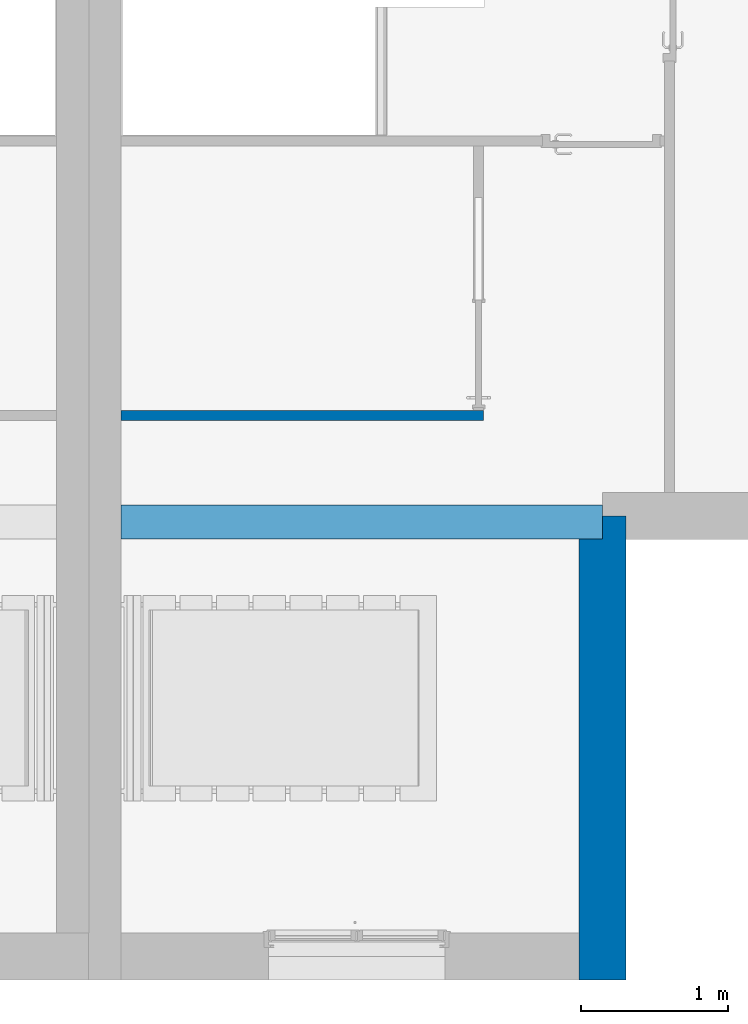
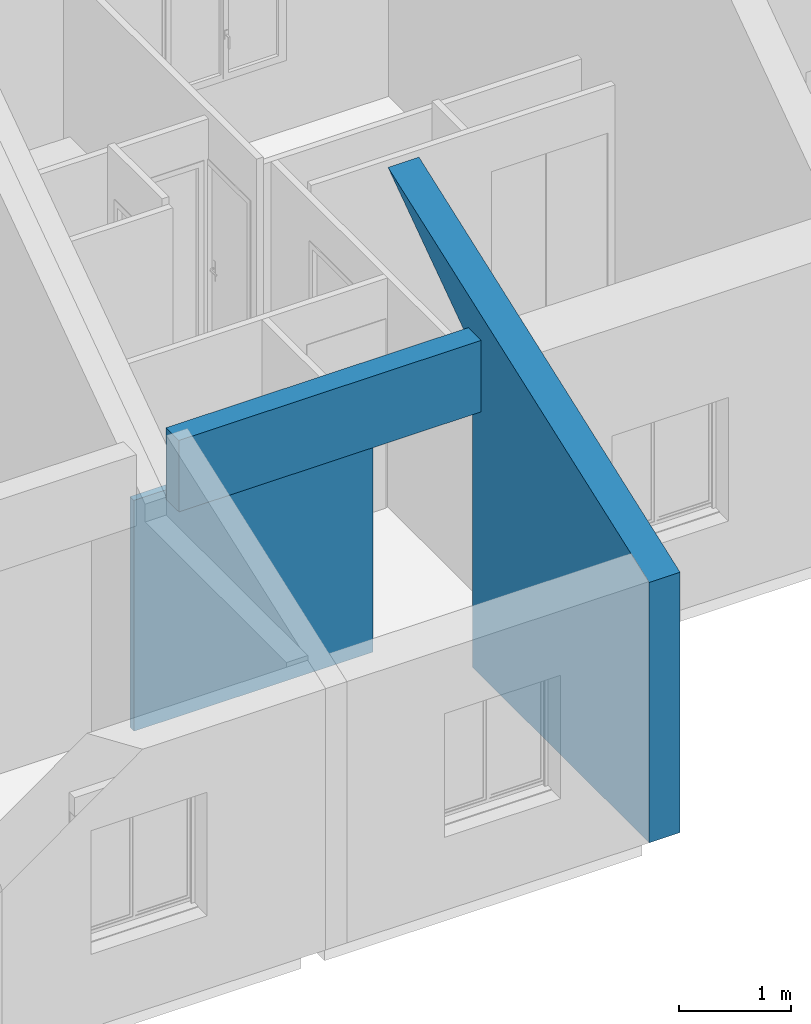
# One storey, part 14 of 61: 3 walls, 1 opening.
"""IFC2X3 building model written with IfcOpenShell, lengths in metres."""

from ifc_helpers import new_model, entity, si_unit, converted_unit, derived_unit, direction, frame, frame_2d, origin, place, context, subcontext, project, spatial, polyline, rectangle, outline, extrude, clip, halfspace, material, layer, layer_set, layer_usage, type_object, element, save


model = new_model("IFC2X3")

# Units and contexts
model_context = context("Model", 3, precision=1e-05, world=origin(), true_north=direction((6.12303176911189e-17, 1.0)))
body_context = subcontext(model_context, "Body", "Model", "MODEL_VIEW")
ifc_project = project(units=[si_unit("LENGTHUNIT", "METRE"), si_unit("AREAUNIT", "SQUARE_METRE"), si_unit("VOLUMEUNIT", "CUBIC_METRE"), converted_unit("PLANEANGLEUNIT", "DEGREE", entity("IfcRatioMeasure", 0.0174532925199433), si_unit("PLANEANGLEUNIT", "RADIAN"), dimensions=[0, 0, 0, 0, 0, 0, 0]), si_unit("MASSUNIT", "GRAM", prefix="KILO"), derived_unit("MASSDENSITYUNIT", [(si_unit("MASSUNIT", "GRAM", prefix="KILO"), 1), (si_unit("LENGTHUNIT", "METRE"), -3)]), si_unit("TIMEUNIT", "SECOND"), si_unit("FREQUENCYUNIT", "HERTZ"), si_unit("THERMODYNAMICTEMPERATUREUNIT", "DEGREE_CELSIUS"), derived_unit("THERMALTRANSMITTANCEUNIT", [(si_unit("MASSUNIT", "GRAM", prefix="KILO"), 1), (si_unit("THERMODYNAMICTEMPERATUREUNIT", "KELVIN"), -1), (si_unit("TIMEUNIT", "SECOND"), -3)]), derived_unit("VOLUMETRICFLOWRATEUNIT", [(si_unit("LENGTHUNIT", "METRE"), 3), (si_unit("TIMEUNIT", "SECOND"), -1)]), si_unit("ELECTRICCURRENTUNIT", "AMPERE"), si_unit("ELECTRICVOLTAGEUNIT", "VOLT"), si_unit("POWERUNIT", "WATT"), si_unit("FORCEUNIT", "NEWTON", prefix="KILO"), si_unit("ILLUMINANCEUNIT", "LUX"), si_unit("LUMINOUSFLUXUNIT", "LUMEN"), si_unit("LUMINOUSINTENSITYUNIT", "CANDELA"), derived_unit("USERDEFINED", [(si_unit("MASSUNIT", "GRAM", prefix="KILO"), -1), (si_unit("LENGTHUNIT", "METRE"), -2), (si_unit("TIMEUNIT", "SECOND"), 3), (si_unit("LUMINOUSFLUXUNIT", "LUMEN"), 1)]), derived_unit("LINEARVELOCITYUNIT", [(si_unit("LENGTHUNIT", "METRE"), 1), (si_unit("TIMEUNIT", "SECOND"), -1)]), si_unit("PRESSUREUNIT", "PASCAL"), derived_unit("USERDEFINED", [(si_unit("LENGTHUNIT", "METRE"), -2), (si_unit("MASSUNIT", "GRAM", prefix="KILO"), 1), (si_unit("TIMEUNIT", "SECOND"), -2)])], contexts=[model_context])

# Site, building, storey
site_placement = place(None, origin())
site = spatial("IfcSite", under=ifc_project, at=site_placement, Name="Surface", CompositionType="ELEMENT")
building_placement = place(site_placement, origin())
building = spatial("IfcBuilding", under=site, at=building_placement, CompositionType="ELEMENT")
storey_placement = place(building_placement, frame((0.0, 0.0, 2.82)))
storey = spatial("IfcBuildingStorey", under=building, at=storey_placement, Name="ETAGE", CompositionType="ELEMENT", Elevation=2.82)

# Wall
ifc_material_1 = material(Name="Peinture - Blanc")
ifc_layer_1 = layer(ifc_material_1, 0.07)
ifc_layer_set_1 = layer_set([ifc_layer_1], Name="Mur de base:Int.  Platre 70 mm en blanc")
ifc_layer_usage_1 = layer_usage(ifc_layer_set_1, "AXIS2", "NEGATIVE", 0.035)
wall_type_1 = type_object("IfcWallType", Name="Mur de base:Int.  Platre 70 mm en blanc", PredefinedType="STANDARD", material=ifc_layer_set_1)
wall_1_placement = place(storey_placement, frame((71.5246263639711, 80.7327566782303, 0.0), z_axis=(0.0, 0.0, 1.0), x_axis=(-1.0, 0.0, 0.0)))
element("IfcWallStandardCase", 1, at=wall_1_placement, inside=storey, type_object=wall_type_1, material=ifc_layer_usage_1, Name="Mur de base:Int.  Platre 70 mm en blanc", ObjectType="Mur de base:Int.  Platre 70 mm en blanc", context=body_context, shape_type="SweptSolid", body=[
    extrude(rectangle(XDim=2.47038340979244, YDim=0.0699999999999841, at=frame_2d((1.23519170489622, 0.0), x_axis=(-1.0, 0.0))), origin(), (0.0, 0.0, 1.0), 2.52),
])

# Wall, opening
ifc_material_2 = material(Name="Enduit  gris")
ifc_layer_2 = layer(ifc_material_2, 0.02)
ifc_material_3 = material(Name="Parpaing")
ifc_layer_3 = layer(ifc_material_3, 0.2)
ifc_material_4 = material(Name="Isolant")
ifc_layer_4 = layer(ifc_material_4, 0.1)
ifc_layer_set_2 = layer_set([ifc_layer_2, ifc_layer_3, ifc_layer_4], Name="Mur de base:Ext. Parpaing 20 + Isolant 10 enduit gris")
ifc_layer_usage_2 = layer_usage(ifc_layer_set_2, "AXIS2", "NEGATIVE", 0.16)
wall_type_2 = type_object("IfcWallType", Name="Mur de base:Ext. Parpaing 20 + Isolant 10 enduit gris", PredefinedType="STANDARD", material=ifc_layer_set_2)
wall_2_placement = place(storey_placement, frame((72.334626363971, 81.5582812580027, 0.0), z_axis=(0.0, 0.0, 1.0), x_axis=(0.0, -1.0, 0.0)))
wall_2 = element("IfcWallStandardCase", 2, at=wall_2_placement, inside=storey, type_object=wall_type_2, material=ifc_layer_usage_2, Name="Mur de base:Ext. Parpaing 20 + Isolant 10 enduit gris", ObjectType="Mur de base:Ext. Parpaing 20 + Isolant 10 enduit gris", context=body_context, shape_type="Clipping", body=[
    clip(clip(extrude(rectangle(XDim=4.67052457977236, YDim=0.319999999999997, at=frame_2d((2.33526228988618, 0.0), x_axis=(-1.0, 0.0))), origin(), (0.0, 0.0, 1.0), 4.54169668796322), halfspace(frame((0.0, -0.159999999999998, 4.54169668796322), z_axis=(0.342020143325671, 0.0, 0.939692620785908), x_axis=(0.0, 1.0, 0.0)), False)), halfspace(frame((0.0, 0.0, 4.54169668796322), z_axis=(-0.948894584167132, 0.0, -0.315593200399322), x_axis=(0.0, 1.0, 0.0)), False)),
])
opening_placement = place(wall_2_placement, origin())
element("IfcOpeningElement", 3, at=opening_placement, cuts=wall_2, Name="Mur de base:Ext. Parpaing 20 + Isolant 10 enduit gris", ObjectType="Opening", context=body_context, shape_type="SweptSolid", body=[
    extrude(outline(polyline([(-2.0888804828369, -0.366510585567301), (2.69742219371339, -0.366510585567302), (-0.608541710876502, 0.733021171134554), (-2.0888804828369, -0.366510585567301)])), frame((1.00701638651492, 0.159999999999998, 2.67523755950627), z_axis=(0.0, -1.0, 0.0), x_axis=(0.315593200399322, 0.0, -0.948894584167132)), (0.0, 0.0, 1.0), 0.32),
])

# Wall
ifc_material_5 = material(Name="Enduit blanc cassé2")
ifc_layer_5 = layer(ifc_material_5, 0.015)
ifc_layer_6 = layer(ifc_material_3, 0.2)
ifc_layer_7 = layer(ifc_material_5, 0.015)
ifc_layer_set_3 = layer_set([ifc_layer_5, ifc_layer_6, ifc_layer_7], Name="Mur de base:Ext. Parpaing 20 + 2 x 1.5")
ifc_layer_usage_3 = layer_usage(ifc_layer_set_3, "AXIS2", "NEGATIVE", 0.115)
wall_type_3 = type_object("IfcWallType", Name="Mur de base:Ext. Parpaing 20 + 2 x 1.5", PredefinedType="STANDARD", material=ifc_layer_set_3)
wall_3_placement = place(storey_placement, frame((72.334626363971, 80.0077566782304, 2.88288676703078), z_axis=(0.0, 0.0, 1.0), x_axis=(-1.0, 0.0, 0.0)))
element("IfcWallStandardCase", 4, at=wall_3_placement, inside=storey, type_object=wall_type_3, material=ifc_layer_usage_3, Name="Mur de base:Ext. Parpaing 20 + 2 x 1.5", ObjectType="Mur de base:Ext. Parpaing 20 + 2 x 1.5", context=body_context, shape_type="SweptSolid", body=[
    extrude(rectangle(XDim=3.28038340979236, YDim=0.230000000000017, at=frame_2d((1.64019170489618, -2.28983498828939e-16), x_axis=(-1.0, 0.0))), origin(), (0.0, 0.0, 1.0), 0.78),
])

save(model, "model.ifc")
